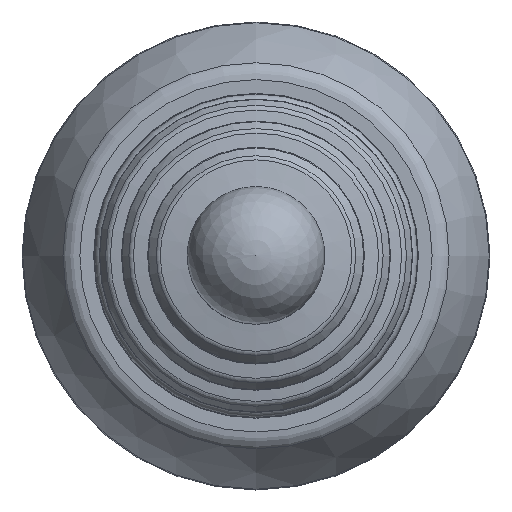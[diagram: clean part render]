
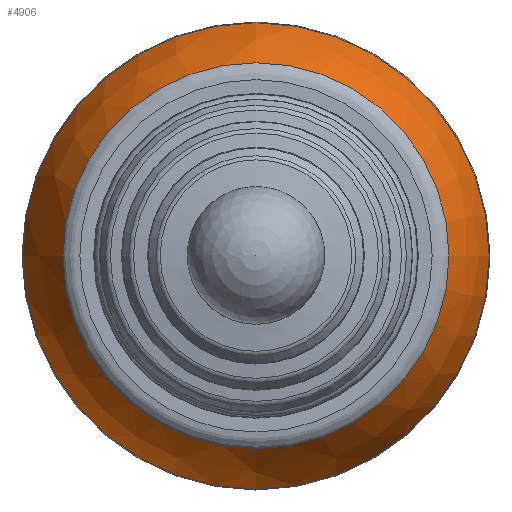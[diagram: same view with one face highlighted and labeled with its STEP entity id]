
A CAD part, top view. The second image highlights one B-rep face of the part: STEP entity #4906.
In plain terms, the highlighted free-form (B-spline) face has degree [2, 2] with [3, 9] control points.
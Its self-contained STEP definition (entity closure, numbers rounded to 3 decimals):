
#17=(
BOUNDED_SURFACE()
B_SPLINE_SURFACE(2,2,((#7693,#7694,#7695,#7696,#7697,#7698,#7699,#7700,
#7701),(#7702,#7703,#7704,#7705,#7706,#7707,#7708,#7709,#7710),(#7711,#7712,
#7713,#7714,#7715,#7716,#7717,#7718,#7719)),.UNSPECIFIED.,.F.,.T.,.F.)
B_SPLINE_SURFACE_WITH_KNOTS((3,3),(3,2,2,2,3),(-0.614,-0.271),
(-3.142,-1.571,0.,1.571,3.142),
 .UNSPECIFIED.)
GEOMETRIC_REPRESENTATION_ITEM()
RATIONAL_B_SPLINE_SURFACE(((1.,0.707,1.,0.707,1.,
0.707,1.,0.707,1.),(0.985,0.697,
0.985,0.697,0.985,0.697,
0.985,0.697,0.985),(1.,0.707,
1.,0.707,1.,0.707,1.,0.707,1.)))
REPRESENTATION_ITEM('')
SURFACE()
);
#958=FACE_OUTER_BOUND('',#1255,.T.);
#1255=EDGE_LOOP('',(#3227,#3228,#3229,#3230));
#1605=CIRCLE('',#5256,33.89);
#1606=CIRCLE('',#5257,40.);
#1607=CIRCLE('',#5258,28.053);
#2004=VERTEX_POINT('',#7690);
#2005=VERTEX_POINT('',#7720);
#2481=EDGE_CURVE('',#2004,#2004,#1605,.T.);
#2482=EDGE_CURVE('',#2004,#2005,#1606,.T.);
#2483=EDGE_CURVE('',#2005,#2005,#1607,.T.);
#3227=ORIENTED_EDGE('',*,*,#2481,.F.);
#3228=ORIENTED_EDGE('',*,*,#2482,.T.);
#3229=ORIENTED_EDGE('',*,*,#2483,.T.);
#3230=ORIENTED_EDGE('',*,*,#2482,.F.);
#4906=ADVANCED_FACE('',(#958),#17,.F.);
#5256=AXIS2_PLACEMENT_3D('',#7692,#6024,#6025);
#5257=AXIS2_PLACEMENT_3D('',#7721,#6026,#6027);
#5258=AXIS2_PLACEMENT_3D('',#7722,#6028,#6029);
#6024=DIRECTION('center_axis',(0.,0.,
-1.));
#6025=DIRECTION('ref_axis',(1.,0.,0.));
#6026=DIRECTION('center_axis',(0.,-1.,0.));
#6027=DIRECTION('ref_axis',(1.,0.,0.));
#6028=DIRECTION('center_axis',(0.,0.,
-1.));
#6029=DIRECTION('ref_axis',(1.,0.,0.));
#7690=CARTESIAN_POINT('',(33.89,0.,0.602));
#7692=CARTESIAN_POINT('Origin',(0.,0.,
0.602));
#7693=CARTESIAN_POINT('Ctrl Pts',(28.053,0.,
12.928));
#7694=CARTESIAN_POINT('Ctrl Pts',(28.053,-28.053,12.928));
#7695=CARTESIAN_POINT('Ctrl Pts',(0.,-28.053,
12.928));
#7696=CARTESIAN_POINT('Ctrl Pts',(-28.053,-28.053,12.928));
#7697=CARTESIAN_POINT('Ctrl Pts',(-28.053,0.,
12.928));
#7698=CARTESIAN_POINT('Ctrl Pts',(-28.053,28.053,12.928));
#7699=CARTESIAN_POINT('Ctrl Pts',(0.,28.053,
12.928));
#7700=CARTESIAN_POINT('Ctrl Pts',(28.053,28.053,12.928));
#7701=CARTESIAN_POINT('Ctrl Pts',(28.053,0.,
12.928));
#7702=CARTESIAN_POINT('Ctrl Pts',(32.038,0.,
7.27));
#7703=CARTESIAN_POINT('Ctrl Pts',(32.038,-32.038,7.27));
#7704=CARTESIAN_POINT('Ctrl Pts',(0.,-32.038,
7.27));
#7705=CARTESIAN_POINT('Ctrl Pts',(-32.038,-32.038,7.27));
#7706=CARTESIAN_POINT('Ctrl Pts',(-32.038,0.,
7.27));
#7707=CARTESIAN_POINT('Ctrl Pts',(-32.038,32.038,7.27));
#7708=CARTESIAN_POINT('Ctrl Pts',(0.,32.038,
7.27));
#7709=CARTESIAN_POINT('Ctrl Pts',(32.038,32.038,7.27));
#7710=CARTESIAN_POINT('Ctrl Pts',(32.038,0.,
7.27));
#7711=CARTESIAN_POINT('Ctrl Pts',(33.89,0.,
0.602));
#7712=CARTESIAN_POINT('Ctrl Pts',(33.89,-33.89,0.602));
#7713=CARTESIAN_POINT('Ctrl Pts',(0.,-33.89,
0.602));
#7714=CARTESIAN_POINT('Ctrl Pts',(-33.89,-33.89,0.602));
#7715=CARTESIAN_POINT('Ctrl Pts',(-33.89,0.,
0.602));
#7716=CARTESIAN_POINT('Ctrl Pts',(-33.89,33.89,0.602));
#7717=CARTESIAN_POINT('Ctrl Pts',(0.,33.89,
0.602));
#7718=CARTESIAN_POINT('Ctrl Pts',(33.89,33.89,0.602));
#7719=CARTESIAN_POINT('Ctrl Pts',(33.89,0.,
0.602));
#7720=CARTESIAN_POINT('',(28.053,0.,12.928));
#7721=CARTESIAN_POINT('Origin',(-4.649,0.,-10.107));
#7722=CARTESIAN_POINT('Origin',(0.,0.,
12.928));
